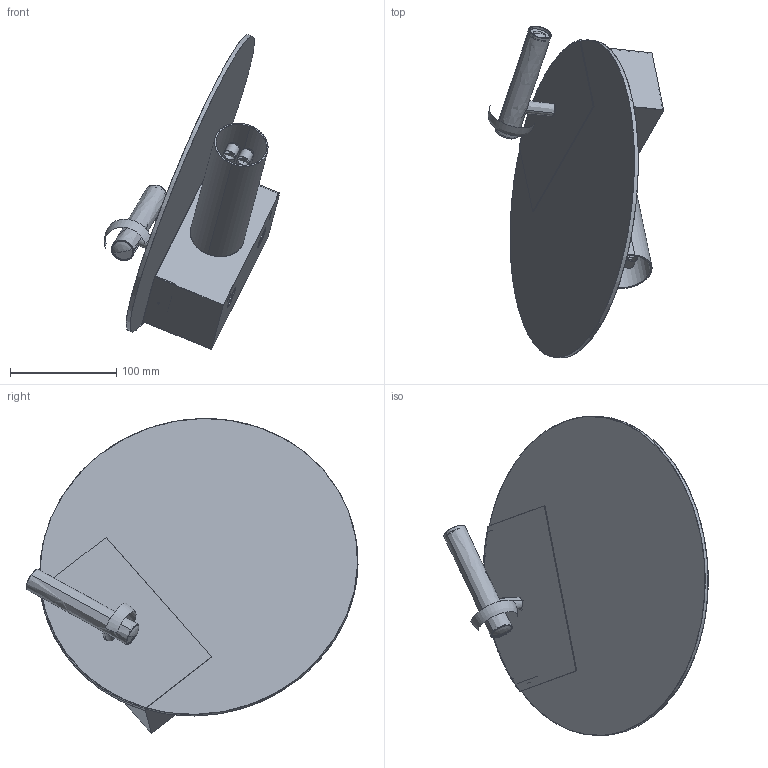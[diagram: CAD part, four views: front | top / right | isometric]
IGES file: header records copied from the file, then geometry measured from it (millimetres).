
Start section: SolidWorks IGES file using analytic representation for surfaces
Global section: file name: C:\Users\Particular\Desktop\almalight\coleccion 2013\catalogo\flat\4415\flat redondo 4415.IGS; native system: SolidWorks 2012; preprocessor: SolidWorks 2012; author: Particular; date: 130405.102542; units: millimetre
Bounding box: 164.84 x 311.85 x 295.87 mm (x, y, z)
Surface area: 346565.9 mm2 (no closed solid volume)
Topology: 0 solids, 0 shells, 163 faces, 2963 edges, 2960 vertices
Faces by surface type: revolution 82, bspline 81
